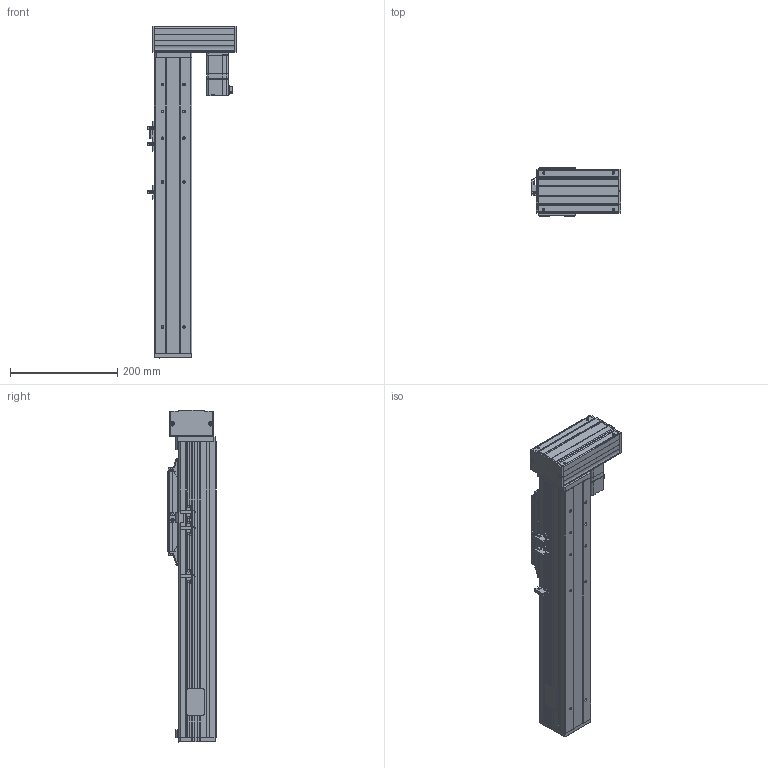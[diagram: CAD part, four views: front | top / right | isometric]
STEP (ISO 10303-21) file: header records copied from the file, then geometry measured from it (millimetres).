
FILE_DESCRIPTION(('Creo Elements/Direct Modeling STEP Export'),'2;1');
FILE_NAME('APCS070RON-ST300.stp','2022-02-18T10:31:36',(''),(''),'Creo Elements/Direct Modeling STEP processor for AP203 (Solid Model)','Creo Elements/Direct Modeling 19.0G 27-Nov-2017 (C) Parametric Technology GmbH','');
FILE_SCHEMA(('CONFIG_CONTROL_DESIGN'));
Length unit declared in the file: millimetre
Products named in the file (16): EE_SX672.1; APCS070-SENSORDOG; APCS70_SLIDER_END_COVER.1; 070_END_COVER_ANY; p1; p2; p3; APCS070_BASE_FRAME-382L; APCS070_END_PLATE; APCS070_Carrier; º´·Ä_MOTOR_END_COVER; sgmjv_01a_a21; º´·Ä_MOTOR_UPPER_COVER-100W; º´·Ä_MOTOR_BRACKET-100W; APCS070RON-1520-ST300-10NN00-N-I3R; APCS070RON-ST300
Assembly tree (19 placements, depth 4):
  APCS070RON-ST300
    APCS070RON-1520-ST300-10NN00-N-I3R
      º´·Ä_MOTOR_BRACKET-100W
      º´·Ä_MOTOR_END_COVER  x2
      º´·Ä_MOTOR_UPPER_COVER-100W
      sgmjv_01a_a21
      APCS070_Carrier
      APCS070_END_PLATE
      APCS070_BASE_FRAME-382L
        p3
        p2
        p1
      070_END_COVER_ANY
      APCS70_SLIDER_END_COVER.1  x2
      EE_SX672.1  x3
      APCS070-SENSORDOG
Bounding box: 167.7 x 90 x 620 mm (x, y, z)
Volume: 1890591 mm3; surface area: 600365.6 mm2
Topology: 17 solids, 17 shells, 2021 faces, 5547 edges, 3594 vertices
Faces by surface type: plane 1183, cylinder 624, cone 102, bspline 82, sphere 22, torus 8
Entity records: 58283 total; most frequent: CARTESIAN_POINT 16184, ORIENTED_EDGE 8766, DIRECTION 7825, EDGE_CURVE 4383, VECTOR 3011, LINE 3011, VERTEX_POINT 2879, AXIS2_PLACEMENT_3D 2407
